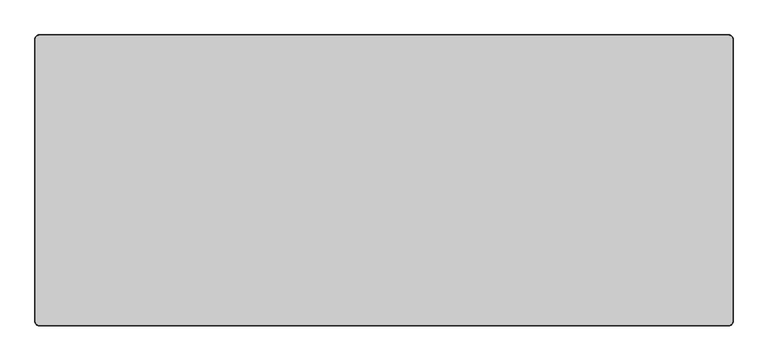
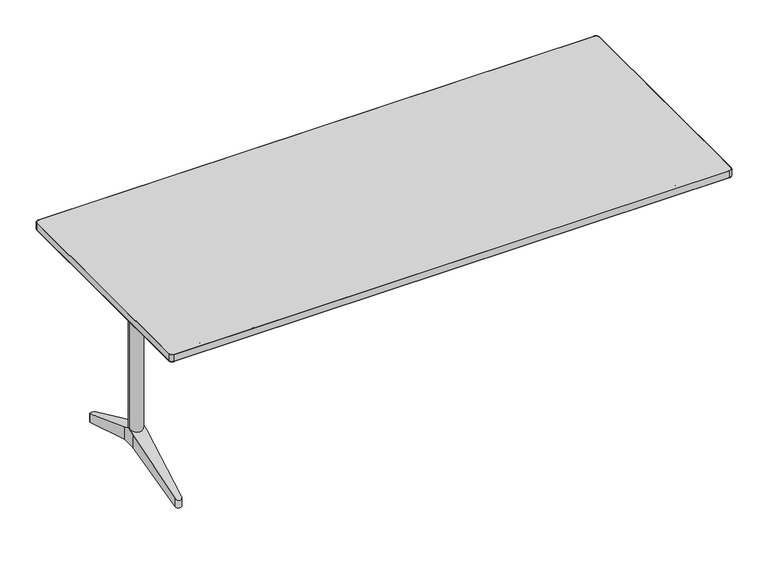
"""IFC4 building model written with IfcOpenShell, lengths in millimetres: furniture geometry."""

from ifc_helpers import new_model, si_unit, point, frame, frame_2d, origin, place, context, project, spatial, polyline, circle_curve, ellipse_curve, trimmed, segment, composite_curve, outline, extrude, faceted_brep, source, transform, mapped, element, save
from ifc_brep_helpers import plane_surface, cylinder_surface, revolved_surface, advanced_brep


def furniture_e656a5aa(model_context):
    return source(origin(), model_context, "Body", "SolidModel", [
        advanced_brep(
        [(-785.1657234, 148.4511551, 210.360006), (-785.1657234, 125.9511544, 219.9000124), (-785.1657234, 103.4511538, 210.360006), (-785.1657234, 103.4511538, 165.9000199), (-785.1657234, 125.9511544, 165.9000199), (-785.1657234, 148.4511551, 165.9000199), (-830.1657383, 148.4511551, 165.9000199), (-830.1657383, 125.9511544, 165.9000199), (-830.1657383, 103.4511538, 165.9000199), (-830.1657383, 103.4511538, 210.360006), (-830.1657383, 125.9511544, 219.9000124), (-830.1657383, 148.4511551, 210.360006), (-797.627182, -113.0675149, 88.8098467), (-817.7042073, -113.0675149, 88.8098467), (-797.6821683, -114.0242798, 118.1504308), (-817.6492204, -114.0242831, 118.1504294), (-797.6821683, -114.0242798, 88.8098467), (-817.6492204, -114.0242831, 88.8098467), (-797.627182, 364.9698238, 88.8098467), (-817.7042073, 364.9698238, 88.8098467), (-817.6492204, 365.926592, 88.8098467), (-797.6821683, 365.9265887, 88.8098467), (-797.6821683, 365.9265887, 118.1504308), (-817.6492204, 365.926592, 118.1504294)],
        [
            (0, 1),
            (1, 2),
            (2, 3),
            (3, 4),
            (4, 5),
            (5, 0),
            (6, 7),
            (7, 8),
            (8, 9),
            (9, 10),
            (10, 11),
            (11, 6),
            (3, 8),
            (7, 4),
            (6, 5),
            (12, 13),
            (13, 8),
            (3, 12),
            (14, 2),
            (1, 10),
            (9, 15),
            (15, 14, ellipse_curve(frame((-807.6656945, -113.4505156, 118.3937069), z_axis=(0.0, -0.39036065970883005, 0.9206620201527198), x_axis=(0.0, -0.9206620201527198, -0.3903606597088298)), 10.8617492, 10.0)),
            (12, 16),
            (16, 17, circle_curve(frame((-807.6656945, -113.4505156, 88.8098467), z_axis=(0.0, 0.0, -1.0), x_axis=(1.0, 0.0, 0.0)), 10.0)),
            (17, 13),
            (18, 19),
            (19, 20),
            (20, 21, circle_curve(frame((-807.6656945, 365.3528245, 88.8098467), z_axis=(0.0, 0.0, -1.0), x_axis=(1.0, 0.0, 0.0)), 10.0)),
            (21, 18),
            (0, 22),
            (22, 23, ellipse_curve(frame((-807.6656945, 365.3528245, 118.3937069), z_axis=(0.0, 0.39036065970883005, 0.9206620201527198), x_axis=(0.0, 0.9206620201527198, -0.3903606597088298)), 10.8617492, 10.0)),
            (23, 11),
            (18, 5),
            (6, 19),
            (21, 22),
            (23, 20),
            (14, 16),
            (15, 17),
        ],
        [
            plane_surface(frame((-785.1657234, 148.4511551, 210.360006), z_axis=(1.0, 0.0, 0.0), x_axis=(0.0, -0.9206619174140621, 0.3903609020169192))),
            plane_surface(frame((-830.1657383, 148.4511551, 210.360006), z_axis=(-1.0, 0.0, 0.0), x_axis=(0.0, 0.9206619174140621, -0.3903609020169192))),
            plane_surface(frame((-785.1657234, 103.4511538, 165.9000199), z_axis=(0.0, 0.0, -1.0), x_axis=(-1.0, 0.0, 0.0))),
            plane_surface(frame((-785.1657234, 125.9511544, 165.9000199), z_axis=(0.0, 0.0, -1.0), x_axis=(-1.0, 0.0, 0.0))),
            plane_surface(frame((-785.1657234, -113.0675149, 88.8098467), z_axis=(0.0, 0.33541814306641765, -0.9420693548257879), x_axis=(-1.0, 0.0, 0.0))),
            plane_surface(frame((-785.1657234, 103.4511538, 210.360006), z_axis=(0.0, -0.39036065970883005, 0.9206620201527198), x_axis=(-1.0, 0.0, 0.0))),
            plane_surface(frame((-785.1657234, -124.5346363, 88.8098467), z_axis=(0.0, 0.0, -1.0), x_axis=(-1.0, 0.0, 0.0))),
            plane_surface(frame((-785.1657234, 364.9698238, 88.8098467), z_axis=(0.0, 0.0, -1.0), x_axis=(-1.0, 0.0, 0.0))),
            plane_surface(frame((-785.1657234, 376.4369452, 113.6940401), z_axis=(0.0, 0.39036065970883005, 0.9206620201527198), x_axis=(-1.0, 0.0, 0.0))),
            plane_surface(frame((-785.1657234, 148.4511551, 165.9000199), z_axis=(0.0, -0.33541814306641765, -0.9420693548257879), x_axis=(-1.0, 0.0, 0.0))),
            plane_surface(frame((-797.6821683, 365.9265887, 234.8098558), z_axis=(0.9983526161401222, 0.0573764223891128, 0.0), x_axis=(0.0, 0.0, -1.0))),
            plane_surface(frame((-830.1478455, 148.4511551, 234.8098558), z_axis=(-0.9983525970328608, 0.0573767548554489, 0.0), x_axis=(0.0, 0.0, -1.0))),
            cylinder_surface(frame((-807.6656945, 365.3528245, 75.8098498), z_axis=(0.0, 0.0, -1.0), x_axis=(1.0, 0.0, 0.0)), 10.0),
            plane_surface(frame((-785.1836161, 103.4511538, 234.8098558), z_axis=(0.9983526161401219, -0.05737642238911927, 0.0), x_axis=(0.0, 0.0, -1.0))),
            cylinder_surface(frame((-807.6656945, -113.4505156, -14.1901527), z_axis=(0.0, 0.0, -1.0), x_axis=(1.0, 0.0, 0.0)), 10.0),
            plane_surface(frame((-817.6492204, -114.0242831, 234.8098558), z_axis=(-0.9983525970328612, -0.05737675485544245, 0.0), x_axis=(0.0, 0.0, -1.0))),
        ],
        [
            (0, [[1, 2, 3, 4, 5, 6]]),
            (1, [[7, 8, 9, 10, 11, 12]]),
            (2, [[-4, 13, -8, 14]]),
            (3, [[-5, -14, -7, 15]]),
            (4, [[16, 17, -13, 18]]),
            (5, [[19, -2, 20, -10, 21, 22]]),
            (6, [[-16, 23, 24, 25]]),
            (7, [[26, 27, 28, 29]]),
            (8, [[30, 31, 32, -11, -20, -1]]),
            (9, [[-26, 33, -15, 34]]),
            (10, [[35, -30, -6, -33, -29]]),
            (11, [[36, -27, -34, -12, -32]]),
            (12, [[-35, -28, -36, -31]]),
            (13, [[37, -23, -18, -3, -19]]),
            (14, [[-37, -22, 38, -24]]),
            (15, [[-38, -21, -9, -17, -25]]),
        ],
    ),
        extrude(outline(composite_curve([segment(trimmed(circle_curve(frame_2d((-807.6657309, 125.9511544)), 22.0), [point((-829.6657309, 125.9511544))], [point((-785.6657309, 125.9511544))], False, "CARTESIAN"), True, "CONTINUOUS"), segment(trimmed(circle_curve(frame_2d((-807.6657309, 125.9511544)), 22.0), [point((-785.6657309, 125.9511544))], [point((-829.6657309, 125.9511544))], False, "CARTESIAN"), True, "CONTINUOUS")], self_intersect=False)), frame((0.0, 0.0, 165.9000199), z_axis=(0.0, 0.0, 1.0), x_axis=(1.0, 0.0, 0.0)), (0.0, 0.0, 1.0), 509.3499944),
        extrude(outline(polyline([(-839.4000109, 403.9511544), (-779.4000395, 403.9511544), (-779.4000395, -152.0488456), (-839.4000109, -152.0488456), (-839.4000109, 403.9511544)]), holes=[polyline([(-781.4000628, 65.9511581), (-781.4000628, 175.9511571), (-837.3999876, 175.9511571), (-837.3999876, 65.9511581), (-781.4000628, 65.9511581)])]), frame((0.0, 0.0, 684.9999762), z_axis=(0.0, 0.0, 1.0), x_axis=(1.0, 0.0, 0.0)), (0.0, 0.0, 1.0), 20.2500238),
        faceted_brep([(839.4000109, 175.9511571, 705.25), (837.3999876, 175.9511571, 705.25), (837.3999876, 65.9511581, 705.25), (839.4000109, 65.9511581, 705.25), (839.4000109, 175.9511571, 684.9999762), (839.4000109, 65.9511581, 684.9999762), (837.3999876, 65.9511581, 684.9999762), (837.3999876, 175.9511571, 684.9999762), (839.4000109, 65.9511581, 705.0), (839.4000109, -152.0488456, 705.0), (839.4000109, -152.0488456, 685.2499762), (839.4000109, 65.9511581, 685.2499762), (839.4000109, 175.9511571, 685.2499762), (839.4000109, 403.9511544, 685.2499762), (839.4000109, 403.9511544, 705.0), (839.4000109, 175.9511571, 705.0), (837.3999876, 65.9511581, 705.0), (837.3999876, 65.9511581, 685.2499762), (837.3999876, 175.9511571, 705.0), (837.3999876, 175.9511571, 685.2499762), (779.4000395, 403.9511544, 705.0), (779.4000395, 175.9511571, 705.0), (781.4000628, 175.9511571, 705.0), (779.4000395, 65.9511581, 705.0), (779.4000395, -152.0488456, 705.0), (781.4000628, 65.9511581, 705.0), (779.4000395, -152.0488456, 685.2499762), (779.4000395, 65.9511581, 685.2499762), (781.4000628, 65.9511581, 685.2499762), (779.4000395, 175.9511571, 685.2499762), (779.4000395, 403.9511544, 685.2499762), (781.4000628, 175.9511571, 685.2499762), (779.4000395, 175.9511571, 684.9999762), (779.4000395, 65.9511581, 684.9999762), (779.4000395, 65.9511581, 705.25), (779.4000395, 175.9511571, 705.25), (781.4000628, 65.9511581, 705.25), (781.4000628, 175.9511571, 705.25), (781.4000628, 175.9511571, 684.9999762), (781.4000628, 65.9511581, 684.9999762)], [[[0, 1, 2, 3]], [[4, 5, 6, 7]], [[0, 3, 8, 9, 10, 11, 5, 4, 12, 13, 14, 15]], [[3, 2, 16, 8]], [[6, 5, 11, 17]], [[1, 0, 15, 18]], [[4, 7, 19, 12]], [[2, 1, 18, 19, 7, 6, 17, 16]], [[15, 14, 20, 21, 22, 18]], [[23, 24, 9, 8, 16, 25]], [[11, 10, 26, 27, 28, 17]], [[29, 30, 13, 12, 19, 31]], [[20, 14, 13, 30]], [[21, 20, 30, 29, 32, 33, 27, 26, 24, 23, 34, 35]], [[9, 24, 26, 10]], [[16, 17, 28, 25]], [[19, 18, 22, 31]], [[35, 34, 36, 37]], [[32, 38, 39, 33]], [[36, 34, 23, 25]], [[33, 39, 28, 27]], [[35, 37, 22, 21]], [[38, 32, 29, 31]], [[37, 36, 25, 28, 39, 38, 31, 22]]]),
        extrude(outline(polyline([(-785.1657234, 75.9511563), (-830.1657383, 75.9511563), (-830.1657383, 155.951156), (-785.1657234, 155.951156), (-785.1657234, 75.9511563)])), frame((0.0, 0.0, 675.2500143), z_axis=(0.0, 0.0, 1.0), x_axis=(1.0, 0.0, 0.0)), (0.0, 0.0, 1.0), 29.9999857),
        extrude(outline(polyline([(785.1657234, 75.9511563), (785.1657234, 155.951156), (830.1657383, 155.951156), (830.1657383, 75.9511563), (785.1657234, 75.9511563)])), frame((0.0, 0.0, 675.2500143), z_axis=(0.0, 0.0, 1.0), x_axis=(1.0, 0.0, 0.0)), (0.0, 0.0, 1.0), 29.9999857),
        extrude(outline(composite_curve([segment(trimmed(circle_curve(frame_2d((-807.6657309, 125.9511544)), 22.0), [point((-794.3334407, 108.4511533))], [point((-794.3334407, 143.4511556))], True, "CARTESIAN"), True, "CONTINUOUS"), segment(polyline([(-794.3334407, 143.4511556), (794.3334407, 143.4511556)]), True, "CONTINUOUS"), segment(trimmed(circle_curve(frame_2d((807.6657309, 125.9511544)), 22.0), [point((794.3334407, 143.4511556))], [point((794.3334407, 108.4511533))], True, "CARTESIAN"), True, "CONTINUOUS"), segment(polyline([(794.3334407, 108.4511533), (-794.3334407, 108.4511533)]), True, "CONTINUOUS")], self_intersect=False)), frame((0.0, 0.0, 625.2500143), z_axis=(0.0, 0.0, 1.0), x_axis=(1.0, 0.0, 0.0)), (0.0, 0.0, 1.0), 50.0),
        advanced_brep(
        [(-779.4000395, -175.0488456, 676.6414874), (-779.4000395, -175.0488456, 696.6414874), (779.4000395, -175.0488456, 676.6414874), (779.4000395, -175.0488456, 696.6414874), (-772.3107653, -175.0488456, 676.6414874), (-770.863829, -175.0488456, 696.6414874), (-717.3107794, -175.0488456, 668.641467), (-715.8638431, -175.0488456, 688.641467), (717.310768, -175.0488456, 668.641467), (715.8638316, -175.0488456, 688.641467), (772.3107539, -175.0488456, 676.6414874), (770.8638175, -175.0488456, 696.6414874)],
        [
            (0, 1, circle_curve(frame((-779.4000395, -175.0488456, 686.6414874), z_axis=(-1.0, 0.0, 0.0), x_axis=(0.0, 0.0, 1.0)), 10.0)),
            (1, 0, circle_curve(frame((-779.4000395, -175.0488456, 686.6414874), z_axis=(-1.0, 0.0, 0.0), x_axis=(0.0, 0.0, 1.0)), 10.0)),
            (2, 3, circle_curve(frame((779.4000395, -175.0488456, 686.6414874), z_axis=(1.0, 0.0, 0.0), x_axis=(0.0, 0.0, 1.0)), 10.0)),
            (3, 2, circle_curve(frame((779.4000395, -175.0488456, 686.6414874), z_axis=(1.0, 0.0, 0.0), x_axis=(0.0, 0.0, 1.0)), 10.0)),
            (0, 4),
            (4, 5, ellipse_curve(frame((-771.5872971, -175.0488456, 686.6414874), z_axis=(-0.9973931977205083, 0.0, 0.07215822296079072), x_axis=(-0.07215822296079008, 0.0, -0.9973931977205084)), 10.0261362, 10.0)),
            (5, 1),
            (5, 4, ellipse_curve(frame((-771.5872971, -175.0488456, 686.6414874), z_axis=(-0.9973931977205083, 0.0, 0.07215822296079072), x_axis=(-0.07215822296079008, 0.0, -0.9973931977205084)), 10.0261362, 10.0)),
            (4, 6),
            (6, 7, ellipse_curve(frame((-716.5873113, -175.0488456, 678.641467), z_axis=(-0.9973931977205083, 0.0, 0.07215822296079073), x_axis=(0.07215822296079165, 0.0, 0.9973931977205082)), 10.0261362, 10.0)),
            (7, 5),
            (7, 6, ellipse_curve(frame((-716.5873113, -175.0488456, 678.641467), z_axis=(-0.9973931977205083, 0.0, 0.07215822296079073), x_axis=(0.07215822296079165, 0.0, 0.9973931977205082)), 10.0261362, 10.0)),
            (6, 8),
            (8, 9, ellipse_curve(frame((716.5872998, -175.0488456, 678.641467), z_axis=(-0.9973931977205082, 0.0, -0.07215822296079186), x_axis=(-0.07215822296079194, 0.0, 0.9973931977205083)), 10.0261362, 10.0)),
            (9, 7),
            (9, 8, ellipse_curve(frame((716.5872998, -175.0488456, 678.641467), z_axis=(-0.9973931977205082, 0.0, -0.07215822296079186), x_axis=(-0.07215822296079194, 0.0, 0.9973931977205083)), 10.0261362, 10.0)),
            (8, 10),
            (10, 11, ellipse_curve(frame((771.5872857, -175.0488456, 686.6414874), z_axis=(-0.9973931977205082, 0.0, -0.07215822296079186), x_axis=(0.07215822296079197, 0.0, -0.9973931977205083)), 10.0261362, 10.0)),
            (11, 9),
            (11, 10, ellipse_curve(frame((771.5872857, -175.0488456, 686.6414874), z_axis=(-0.9973931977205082, 0.0, -0.07215822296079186), x_axis=(0.07215822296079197, 0.0, -0.9973931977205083)), 10.0261362, 10.0)),
            (10, 2),
            (3, 11),
        ],
        [
            plane_surface(frame((-779.4000395, -152.0488456, 716.8750406), z_axis=(-1.0, 0.0, 0.0), x_axis=(0.0, -1.0, 0.0))),
            plane_surface(frame((779.4000395, -152.0488456, 716.8750406), z_axis=(1.0, 0.0, 0.0), x_axis=(0.0, -1.0, 0.0))),
            cylinder_surface(frame((-779.4000395, -175.0488456, 686.6414874), z_axis=(-1.0, 0.0, 0.0), x_axis=(0.0, 0.0, 1.0)), 10.0),
            cylinder_surface(frame((-773.7518208, -175.0488456, 686.9563281), z_axis=(-0.9895863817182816, 0.0, 0.14394024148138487), x_axis=(0.14394024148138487, 0.0, 0.9895863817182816)), 10.0),
            cylinder_surface(frame((-714.4000099, -175.0488456, 678.641467), z_axis=(-1.0, 0.0, 0.0), x_axis=(0.0, 0.0, 1.0)), 10.0),
            cylinder_surface(frame((718.7518234, -175.0488456, 678.9563077), z_axis=(-0.9895863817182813, 0.0, -0.1439402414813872), x_axis=(-0.1439402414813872, 0.0, 0.9895863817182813)), 10.0),
            cylinder_surface(frame((769.3999844, -175.0488456, 686.6414874), z_axis=(-1.0, 0.0, 0.0), x_axis=(0.0, 0.0, 1.0)), 10.0),
        ],
        [
            (0, [[1, 2]]),
            (1, [[3, 4]]),
            (2, [[-1, 5, 6, 7]]),
            (2, [[-2, -7, 8, -5]]),
            (3, [[-6, 9, 10, 11]]),
            (3, [[-8, -11, 12, -9]]),
            (4, [[-10, 13, 14, 15]]),
            (4, [[-12, -15, 16, -13]]),
            (5, [[-14, 17, 18, 19]]),
            (5, [[-16, -19, 20, -17]]),
            (6, [[-18, 21, -4, 22]]),
            (6, [[-20, -22, -3, -21]]),
        ],
    ),
        extrude(outline(composite_curve([segment(trimmed(circle_curve(frame_2d((-904.4, 496.9511544)), 10.0), [point((-914.4, 496.9511544))], [point((-904.4, 506.9511544))], False, "CARTESIAN"), True, "CONTINUOUS"), segment(polyline([(-904.4, 506.9511544), (904.4, 506.9511544)]), True, "CONTINUOUS"), segment(trimmed(circle_curve(frame_2d((904.4, 496.9511544)), 10.0), [point((904.4, 506.9511544))], [point((914.4, 496.9511544))], False, "CARTESIAN"), True, "CONTINUOUS"), segment(polyline([(914.4, 496.9511544), (914.4, -245.0488456)]), True, "CONTINUOUS"), segment(trimmed(circle_curve(frame_2d((904.4, -245.0488456)), 10.0), [point((914.4, -245.0488456))], [point((904.4, -255.0488456))], False, "CARTESIAN"), True, "CONTINUOUS"), segment(polyline([(904.4, -255.0488456), (-904.4, -255.0488456)]), True, "CONTINUOUS"), segment(trimmed(circle_curve(frame_2d((-904.4, -245.0488456)), 10.0), [point((-904.4, -255.0488456))], [point((-914.4, -245.0488456))], False, "CARTESIAN"), True, "CONTINUOUS"), segment(polyline([(-914.4, -245.0488456), (-914.4, 496.9511544)]), True, "CONTINUOUS")], self_intersect=False)), frame((0.0, 0.0, 705.25), z_axis=(0.0, 0.0, 1.0), x_axis=(1.0, 0.0, 0.0)), (0.0, 0.0, 1.0), 25.0),
        advanced_brep(
        [(914.4, -245.0488456, 705.25), (904.4, -255.0488456, 705.25), (904.4, -255.0488456, 730.25), (914.4, -245.0488456, 730.25), (914.4, 496.9511544, 730.25), (914.4, 496.9511544, 705.25), (904.4, 506.9511544, 705.25), (904.4, 506.9511544, 730.25), (-904.4, 506.9511544, 730.25), (-904.4, 506.9511544, 705.25), (-914.4, 496.9511544, 705.25), (-914.4, 496.9511544, 730.25), (-914.4, -245.0488456, 730.25), (-914.4, -245.0488456, 705.25), (-904.4, -255.0488456, 705.25), (-904.4, -255.0488456, 730.25), (915.4, -245.0488456, 706.25), (904.4, -256.0488456, 706.25), (915.4, -245.0488456, 729.25), (904.4, -256.0488456, 729.25), (915.4, 496.9511544, 706.25), (915.4, 496.9511544, 729.25), (904.4, 507.9511544, 706.25), (904.4, 507.9511544, 729.25), (-904.4, 507.9511544, 706.25), (-904.4, 507.9511544, 729.25), (-915.4, 496.9511544, 706.25), (-915.4, 496.9511544, 729.25), (-915.4, -245.0488456, 706.25), (-915.4, -245.0488456, 729.25), (-904.4, -256.0488456, 706.25), (-904.4, -256.0488456, 729.25)],
        [
            (0, 1, circle_curve(frame((904.4, -245.0488456, 705.25), z_axis=(0.0, 0.0, -1.0), x_axis=(0.0, -1.0, 0.0)), 10.0)),
            (1, 2),
            (2, 3, circle_curve(frame((904.4, -245.0488456, 730.25), z_axis=(0.0, 0.0, 1.0), x_axis=(0.0, -1.0, 0.0)), 10.0)),
            (3, 0),
            (3, 4),
            (4, 5),
            (5, 0),
            (6, 5, circle_curve(frame((904.4, 496.9511544, 705.25), z_axis=(0.0, 0.0, -1.0), x_axis=(1.0, 0.0, 0.0)), 10.0)),
            (4, 7, circle_curve(frame((904.4, 496.9511544, 730.25), z_axis=(0.0, 0.0, 1.0), x_axis=(1.0, 0.0, 0.0)), 10.0)),
            (7, 6),
            (7, 8),
            (8, 9),
            (9, 6),
            (10, 9, circle_curve(frame((-904.4, 496.9511544, 705.25), z_axis=(0.0, 0.0, -1.0), x_axis=(0.0, 1.0, 0.0)), 10.0)),
            (8, 11, circle_curve(frame((-904.4, 496.9511544, 730.25), z_axis=(0.0, 0.0, 1.0), x_axis=(0.0, 1.0, 0.0)), 10.0)),
            (11, 10),
            (11, 12),
            (12, 13),
            (13, 10),
            (14, 13, circle_curve(frame((-904.4, -245.0488456, 705.25), z_axis=(0.0, 0.0, -1.0), x_axis=(-1.0, 0.0, 0.0)), 10.0)),
            (12, 15, circle_curve(frame((-904.4, -245.0488456, 730.25), z_axis=(0.0, 0.0, 1.0), x_axis=(-1.0, 0.0, 0.0)), 10.0)),
            (15, 14),
            (15, 2),
            (1, 14),
            (16, 17, circle_curve(frame((904.4, -245.0488456, 706.25), z_axis=(0.0, 0.0, -1.0), x_axis=(0.0, -1.0, 0.0)), 11.0)),
            (17, 1, circle_curve(frame((904.4, -255.0488456, 706.25), z_axis=(1.0, 0.0, 0.0), x_axis=(0.0, 1.0, 0.0)), 1.0)),
            (0, 16, circle_curve(frame((914.4, -245.0488456, 706.25), z_axis=(0.0, -1.0, 0.0), x_axis=(-1.0, 0.0, 0.0)), 1.0)),
            (18, 19, circle_curve(frame((904.4, -245.0488456, 729.25), z_axis=(0.0, 0.0, -1.0), x_axis=(0.0, -1.0, 0.0)), 11.0)),
            (19, 17),
            (16, 18),
            (2, 19, circle_curve(frame((904.4, -255.0488456, 729.25), z_axis=(1.0, 0.0, 0.0), x_axis=(0.0, 1.0, 0.0)), 1.0)),
            (18, 3, circle_curve(frame((914.4, -245.0488456, 729.25), z_axis=(0.0, -1.0, 0.0), x_axis=(-1.0, 0.0, 0.0)), 1.0)),
            (5, 20, circle_curve(frame((914.4, 496.9511544, 706.25), z_axis=(0.0, -1.0, 0.0), x_axis=(-1.0, 0.0, 0.0)), 1.0)),
            (20, 16),
            (20, 21),
            (21, 18),
            (21, 4, circle_curve(frame((914.4, 496.9511544, 729.25), z_axis=(0.0, -1.0, 0.0), x_axis=(-1.0, 0.0, 0.0)), 1.0)),
            (22, 20, circle_curve(frame((904.4, 496.9511544, 706.25), z_axis=(0.0, 0.0, -1.0), x_axis=(1.0, 0.0, 0.0)), 11.0)),
            (6, 22, circle_curve(frame((904.4, 506.9511544, 706.25), z_axis=(1.0, 0.0, 0.0), x_axis=(0.0, -1.0, 0.0)), 1.0)),
            (23, 21, circle_curve(frame((904.4, 496.9511544, 729.25), z_axis=(0.0, 0.0, -1.0), x_axis=(1.0, 0.0, 0.0)), 11.0)),
            (22, 23),
            (23, 7, circle_curve(frame((904.4, 506.9511544, 729.25), z_axis=(1.0, 0.0, 0.0), x_axis=(0.0, -1.0, 0.0)), 1.0)),
            (9, 24, circle_curve(frame((-904.4, 506.9511544, 706.25), z_axis=(1.0, 0.0, 0.0), x_axis=(0.0, -1.0, 0.0)), 1.0)),
            (24, 22),
            (24, 25),
            (25, 23),
            (25, 8, circle_curve(frame((-904.4, 506.9511544, 729.25), z_axis=(1.0, 0.0, 0.0), x_axis=(0.0, -1.0, 0.0)), 1.0)),
            (26, 24, circle_curve(frame((-904.4, 496.9511544, 706.25), z_axis=(0.0, 0.0, -1.0), x_axis=(0.0, 1.0, 0.0)), 11.0)),
            (10, 26, circle_curve(frame((-914.4, 496.9511544, 706.25), z_axis=(0.0, 1.0, 0.0), x_axis=(1.0, 0.0, 0.0)), 1.0)),
            (27, 25, circle_curve(frame((-904.4, 496.9511544, 729.25), z_axis=(0.0, 0.0, -1.0), x_axis=(0.0, 1.0, 0.0)), 11.0)),
            (26, 27),
            (27, 11, circle_curve(frame((-914.4, 496.9511544, 729.25), z_axis=(0.0, 1.0, 0.0), x_axis=(1.0, 0.0, 0.0)), 1.0)),
            (13, 28, circle_curve(frame((-914.4, -245.0488456, 706.25), z_axis=(0.0, 1.0, 0.0), x_axis=(1.0, 0.0, 0.0)), 1.0)),
            (28, 26),
            (28, 29),
            (29, 27),
            (29, 12, circle_curve(frame((-914.4, -245.0488456, 729.25), z_axis=(0.0, 1.0, 0.0), x_axis=(1.0, 0.0, 0.0)), 1.0)),
            (30, 28, circle_curve(frame((-904.4, -245.0488456, 706.25), z_axis=(0.0, 0.0, -1.0), x_axis=(-1.0, 0.0, 0.0)), 11.0)),
            (14, 30, circle_curve(frame((-904.4, -255.0488456, 706.25), z_axis=(-1.0, 0.0, 0.0), x_axis=(0.0, 1.0, 0.0)), 1.0)),
            (31, 29, circle_curve(frame((-904.4, -245.0488456, 729.25), z_axis=(0.0, 0.0, -1.0), x_axis=(-1.0, 0.0, 0.0)), 11.0)),
            (30, 31),
            (31, 15, circle_curve(frame((-904.4, -255.0488456, 729.25), z_axis=(-1.0, 0.0, 0.0), x_axis=(0.0, 1.0, 0.0)), 1.0)),
            (17, 30),
            (19, 31),
        ],
        [
            revolved_surface(polyline([(904.4, -255.0488456, 730.25), (904.4, -255.0488456, 705.25)]), (904.4, -245.0488456, 730.25), (0.0, 0.0, 1.0)),
            plane_surface(frame((914.4, -245.0488456, 730.25), z_axis=(-1.0, 0.0, 0.0), x_axis=(0.0, 1.0, 0.0))),
            revolved_surface(polyline([(914.4, 496.9511544, 730.25), (914.4, 496.9511544, 705.25)]), (904.4, 496.9511544, 730.25), (0.0, 0.0, 1.0)),
            plane_surface(frame((904.4, 506.9511544, 730.25), z_axis=(0.0, -1.0, 0.0), x_axis=(-1.0, 0.0, 0.0))),
            revolved_surface(polyline([(-904.4, 506.9511544, 730.25), (-904.4, 506.9511544, 705.25)]), (-904.4, 496.9511544, 730.25), (0.0, 0.0, 1.0)),
            plane_surface(frame((-914.4, 496.9511544, 730.25), z_axis=(1.0, 0.0, 0.0), x_axis=(0.0, -1.0, 0.0))),
            revolved_surface(polyline([(-914.4, -245.0488456, 730.25), (-914.4, -245.0488456, 705.25)]), (-904.4, -245.0488456, 730.25), (0.0, 0.0, 1.0)),
            plane_surface(frame((-904.4, -255.0488456, 730.25), z_axis=(0.0, 1.0, 0.0), x_axis=(1.0, 0.0, 0.0))),
            revolved_surface(trimmed(ellipse_curve(frame((904.4, -255.0488456, 706.25), z_axis=(-1.0, 0.0, 0.0), x_axis=(0.0, 1.0, 0.0)), 1.0, 1.0), [point((904.4, -255.0488456, 705.25))], [point((904.4, -256.0488456, 706.25))], True, "CARTESIAN"), (904.4, -245.0488456, 730.25), (0.0, 0.0, 1.0)),
            cylinder_surface(frame((904.4, -245.0488456, 730.25), z_axis=(0.0, 0.0, 1.0), x_axis=(0.0, -1.0, 0.0)), 11.0),
            revolved_surface(trimmed(ellipse_curve(frame((904.4, -255.0488456, 729.25), z_axis=(-1.0, 0.0, 0.0), x_axis=(0.0, 1.0, 0.0)), 1.0, 1.0), [point((904.4, -256.0488456, 729.25))], [point((904.4, -255.0488456, 730.25))], True, "CARTESIAN"), (904.4, -245.0488456, 730.25), (0.0, 0.0, 1.0)),
            cylinder_surface(frame((914.4, -245.0488456, 706.25), z_axis=(0.0, -1.0, 0.0), x_axis=(-1.0, 0.0, 0.0)), 1.0),
            plane_surface(frame((915.4, -245.0488456, 706.25), z_axis=(1.0, 0.0, 0.0), x_axis=(0.0, 1.0, 0.0))),
            cylinder_surface(frame((914.4, -245.0488456, 729.25), z_axis=(0.0, -1.0, 0.0), x_axis=(-1.0, 0.0, 0.0)), 1.0),
            revolved_surface(trimmed(ellipse_curve(frame((914.4, 496.9511544, 706.25), z_axis=(0.0, -1.0, 0.0), x_axis=(-1.0, 0.0, 0.0)), 1.0, 1.0), [point((914.4, 496.9511544, 705.25))], [point((915.4, 496.9511544, 706.25))], True, "CARTESIAN"), (904.4, 496.9511544, 730.25), (0.0, 0.0, 1.0)),
            cylinder_surface(frame((904.4, 496.9511544, 730.25), z_axis=(0.0, 0.0, 1.0), x_axis=(1.0, 0.0, 0.0)), 11.0),
            revolved_surface(trimmed(ellipse_curve(frame((914.4, 496.9511544, 729.25), z_axis=(0.0, -1.0, 0.0), x_axis=(-1.0, 0.0, 0.0)), 1.0, 1.0), [point((915.4, 496.9511544, 729.25))], [point((914.4, 496.9511544, 730.25))], True, "CARTESIAN"), (904.4, 496.9511544, 730.25), (0.0, 0.0, 1.0)),
            cylinder_surface(frame((904.4, 506.9511544, 706.25), z_axis=(1.0, 0.0, 0.0), x_axis=(0.0, -1.0, 0.0)), 1.0),
            plane_surface(frame((904.4, 507.9511544, 706.25), z_axis=(0.0, 1.0, 0.0), x_axis=(-1.0, 0.0, 0.0))),
            cylinder_surface(frame((904.4, 506.9511544, 729.25), z_axis=(1.0, 0.0, 0.0), x_axis=(0.0, -1.0, 0.0)), 1.0),
            revolved_surface(trimmed(ellipse_curve(frame((-904.4, 506.9511544, 706.25), z_axis=(1.0, 0.0, 0.0), x_axis=(0.0, -1.0, 0.0)), 1.0, 1.0), [point((-904.4, 506.9511544, 705.25))], [point((-904.4, 507.9511544, 706.25))], True, "CARTESIAN"), (-904.4, 496.9511544, 730.25), (0.0, 0.0, 1.0)),
            cylinder_surface(frame((-904.4, 496.9511544, 730.25), z_axis=(0.0, 0.0, 1.0), x_axis=(0.0, 1.0, 0.0)), 11.0),
            revolved_surface(trimmed(ellipse_curve(frame((-904.4, 506.9511544, 729.25), z_axis=(1.0, 0.0, 0.0), x_axis=(0.0, -1.0, 0.0)), 1.0, 1.0), [point((-904.4, 507.9511544, 729.25))], [point((-904.4, 506.9511544, 730.25))], True, "CARTESIAN"), (-904.4, 496.9511544, 730.25), (0.0, 0.0, 1.0)),
            cylinder_surface(frame((-914.4, 496.9511544, 706.25), z_axis=(0.0, 1.0, 0.0), x_axis=(1.0, 0.0, 0.0)), 1.0),
            plane_surface(frame((-915.4, 496.9511544, 706.25), z_axis=(-1.0, 0.0, 0.0), x_axis=(0.0, -1.0, 0.0))),
            cylinder_surface(frame((-914.4, 496.9511544, 729.25), z_axis=(0.0, 1.0, 0.0), x_axis=(1.0, 0.0, 0.0)), 1.0),
            revolved_surface(trimmed(ellipse_curve(frame((-914.4, -245.0488456, 706.25), z_axis=(0.0, 1.0, 0.0), x_axis=(1.0, 0.0, 0.0)), 1.0, 1.0), [point((-914.4, -245.0488456, 705.25))], [point((-915.4, -245.0488456, 706.25))], True, "CARTESIAN"), (-904.4, -245.0488456, 730.25), (0.0, 0.0, 1.0)),
            cylinder_surface(frame((-904.4, -245.0488456, 730.25), z_axis=(0.0, 0.0, 1.0), x_axis=(-1.0, 0.0, 0.0)), 11.0),
            revolved_surface(trimmed(ellipse_curve(frame((-914.4, -245.0488456, 729.25), z_axis=(0.0, 1.0, 0.0), x_axis=(1.0, 0.0, 0.0)), 1.0, 1.0), [point((-915.4, -245.0488456, 729.25))], [point((-914.4, -245.0488456, 730.25))], True, "CARTESIAN"), (-904.4, -245.0488456, 730.25), (0.0, 0.0, 1.0)),
            cylinder_surface(frame((-904.4, -255.0488456, 706.25), z_axis=(-1.0, 0.0, 0.0), x_axis=(0.0, 1.0, 0.0)), 1.0),
            plane_surface(frame((-904.4, -256.0488456, 706.25), z_axis=(0.0, -1.0, 0.0), x_axis=(1.0, 0.0, 0.0))),
            cylinder_surface(frame((-904.4, -255.0488456, 729.25), z_axis=(-1.0, 0.0, 0.0), x_axis=(0.0, 1.0, 0.0)), 1.0),
        ],
        [
            (0, [[1, 2, 3, 4]]),
            (1, [[-4, 5, 6, 7]]),
            (2, [[8, -6, 9, 10]]),
            (3, [[-10, 11, 12, 13]]),
            (4, [[14, -12, 15, 16]]),
            (5, [[-16, 17, 18, 19]]),
            (6, [[20, -18, 21, 22]]),
            (7, [[-22, 23, -2, 24]]),
            (8, [[25, 26, -1, 27]]),
            (9, [[28, 29, -25, 30]]),
            (10, [[-3, 31, -28, 32]]),
            (11, [[-27, -7, 33, 34]]),
            (12, [[-30, -34, 35, 36]]),
            (13, [[-32, -36, 37, -5]]),
            (14, [[38, -33, -8, 39]]),
            (15, [[40, -35, -38, 41]]),
            (16, [[-9, -37, -40, 42]]),
            (17, [[-39, -13, 43, 44]]),
            (18, [[-41, -44, 45, 46]]),
            (19, [[-42, -46, 47, -11]]),
            (20, [[48, -43, -14, 49]]),
            (21, [[50, -45, -48, 51]]),
            (22, [[-15, -47, -50, 52]]),
            (23, [[-49, -19, 53, 54]]),
            (24, [[-51, -54, 55, 56]]),
            (25, [[-52, -56, 57, -17]]),
            (26, [[58, -53, -20, 59]]),
            (27, [[60, -55, -58, 61]]),
            (28, [[-21, -57, -60, 62]]),
            (29, [[-59, -24, -26, 63]]),
            (30, [[-61, -63, -29, 64]]),
            (31, [[-62, -64, -31, -23]]),
        ],
    ),
    ])


if __name__ == "__main__":
    model = new_model("IFC4")
    model_context = context("Model", 3, world=origin())
    ifc_project = project(units=[si_unit("LENGTHUNIT", "METRE", prefix="MILLI")], contexts=[model_context])
    site = spatial("IfcSite", under=ifc_project)
    building = spatial("IfcBuilding", under=site)
    placement = place(None, origin())
    furniture_shape = furniture_e656a5aa(model_context)
    element("IfcFurniture", 1, ObjectType="Furniture_Wilkhahn_Timetable_612-51_Smart : 30\"W x 72\"L", at=placement, inside=building, context=model_context, shape_type="MappedRepresentation", body=[
        mapped(furniture_shape, transform((0.0, 0.0, 0.0), x_axis=(1.0, 0.0, 0.0), y_axis=(0.0, 1.0, 0.0), z_axis=(0.0, 0.0, 1.0))),
    ])
    save(model, "model.ifc")
